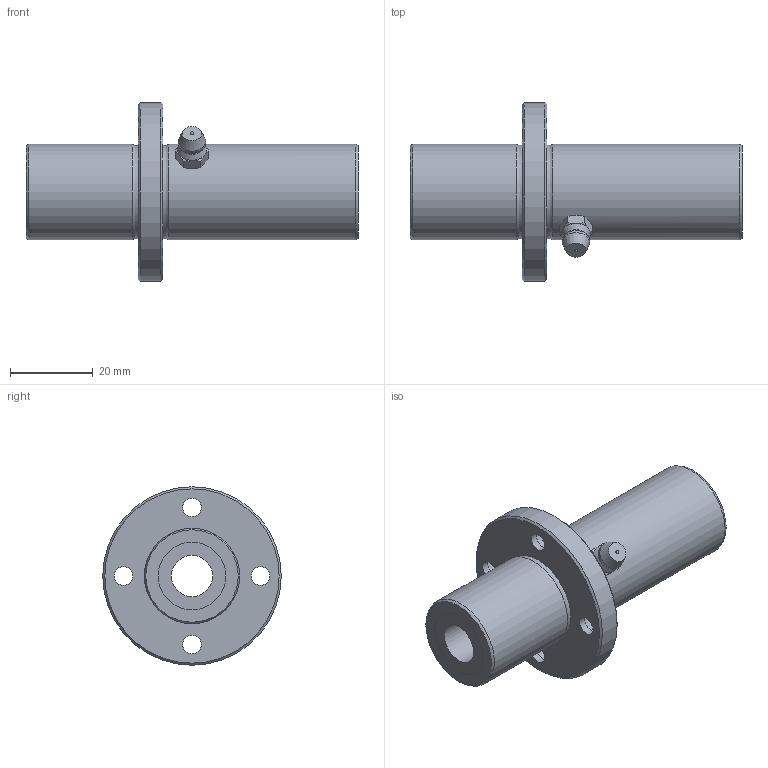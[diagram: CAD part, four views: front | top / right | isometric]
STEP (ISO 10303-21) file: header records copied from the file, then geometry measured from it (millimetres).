
FILE_DESCRIPTION((''),'2;1');
FILE_NAME('D:\製品 (図面)\カタログ用3D\リニアベアリング関連\STEP形式\LFLC\LFLC10.stp','2010-06-04T09:05:10',('Tsuchiya'),(''),'Autodesk Inventor 10','Autodesk Inventor 10','');
FILE_SCHEMA(('AUTOMOTIVE_DESIGN { 1 0 10303 214 1 1 1 1 }'));
Length unit declared in the file: millimetre
Products named in the file (1): LFLC10
Bounding box: 80 x 43 x 43 mm (x, y, z)
Volume: 32359.9 mm3; surface area: 11931.2 mm2
Topology: 1 solids, 1 shells, 59 faces, 117 edges, 70 vertices
Faces by surface type: plane 16, bspline 16, cone 15, cylinder 8, sphere 2, torus 2
Full cylindrical faces by diameter (mm): 10 x1, 16.3 x2, 23 x2, 43 x1
Entity records: 1803 total; most frequent: CARTESIAN_POINT 730, DIRECTION 210, ORIENTED_EDGE 184, EDGE_LOOP 104, AXIS2_PLACEMENT_3D 100, EDGE_CURVE 92, VERTEX_POINT 68, FACE_OUTER_BOUND 59
